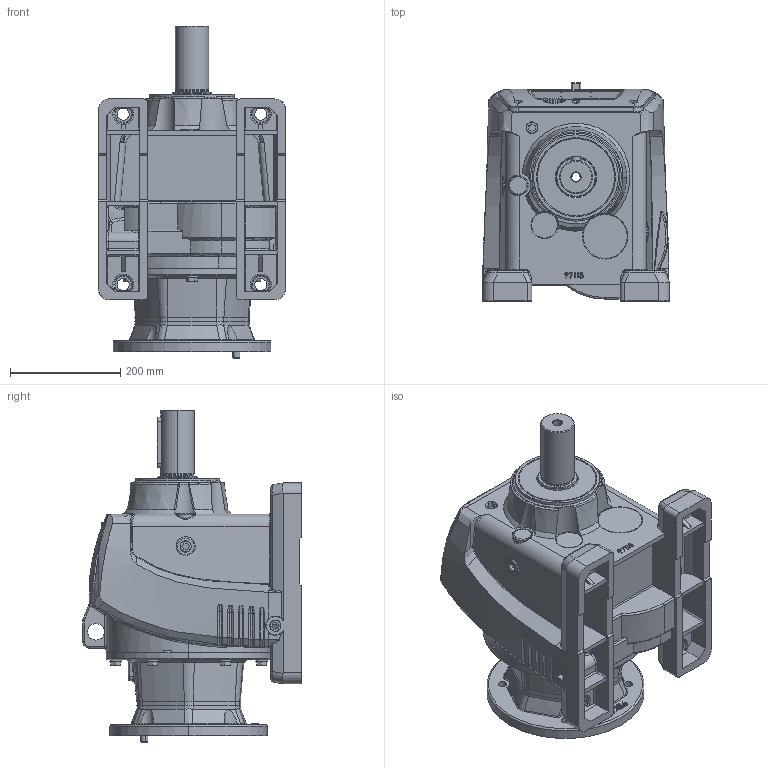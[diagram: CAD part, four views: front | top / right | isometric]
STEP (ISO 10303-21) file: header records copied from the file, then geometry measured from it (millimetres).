
FILE_DESCRIPTION (( 'STEP AP203' ), '1' );
FILE_NAME ('WINL97-284-6TC.STEP', '2013-09-26T10:06:58', ( 'User' ), ( 'Chenta' ), 'SwSTEP 2.0', 'SolidWorks 2011', '' );
FILE_SCHEMA (( 'CONFIG_CONTROL_DESIGN' ));
Products named in the file (1): WINL97-284-6TC
Bounding box: 340 x 397 x 603.25 mm (x, y, z)
Surface area: 1164980.6 mm2 (no closed solid volume)
Topology: 0 solids, 47 shells, 1313 faces, 3827 edges, 2513 vertices
Faces by surface type: plane 407, bspline 350, cylinder 326, cone 118, torus 96, sphere 16
Entity records: 69927 total; most frequent: CARTESIAN_POINT 38586, ORIENTED_EDGE 6873, DIRECTION 5554, EDGE_CURVE 3817, VERTEX_POINT 2513, AXIS2_PLACEMENT_3D 2071, EDGE_LOOP 1426, LINE 1412
